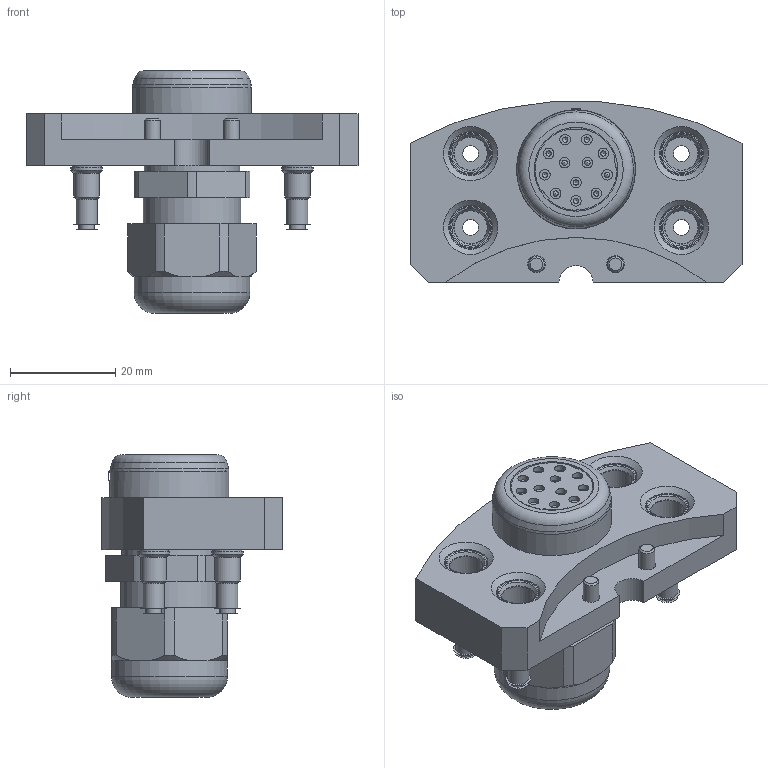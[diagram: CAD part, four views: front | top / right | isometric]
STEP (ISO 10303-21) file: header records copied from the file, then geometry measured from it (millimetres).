
FILE_DESCRIPTION(/* description */ (''),/* implementation_level */ '2;1');
FILE_NAME(/* name */ '\\dc01\daten\CAD\Standard\Daten\3D-Datenbank\Webseite 2020\MGW\MGW080\G-MEK080-U-4Pk4-1E12.stp',/* time_stamp */ '2020-05-12T13:07:52+02:00',/* author */ ('ysplieth'),/* organization */ (''),/* preprocessor_version */ 'ST-DEVELOPER v17',/* originating_system */ 'Autodesk Inventor 2018',/* authorisation */ '');
FILE_SCHEMA (('AUTOMOTIVE_DESIGN { 1 0 10303 214 3 1 1 }'));
Length unit declared in the file: millimetre
Products named in the file (1): G-MEK080-U-4Pk4-1E12
Bounding box: 63 x 34.23 x 46.1 mm (x, y, z)
Volume: 26973.5 mm3; surface area: 17321.2 mm2
Topology: 11 solids, 11 shells, 372 faces, 1015 edges, 704 vertices
Faces by surface type: plane 153, cylinder 138, cone 65, torus 16
Full cylindrical faces by diameter (mm): 1 x12, 1.6 x12, 2 x26, 2.013 x2, 3 x6, 3.3 x2, 4 x4, 4.8 x4, 5.5 x6, 5.9 x4, 6 x6, 6.3 x4, 8 x4, 8.3 x4, 10 x1, 14 x1, 15.9 x1, 17.1 x1, 18.1 x1, 18.5 x1, 22 x1, 22.6 x1
Entity records: 13108 total; most frequent: CARTESIAN_POINT 2802, DIRECTION 2196, ORIENTED_EDGE 1974, EDGE_CURVE 987, AXIS2_PLACEMENT_3D 891, VERTEX_POINT 704, CIRCLE 518, EDGE_LOOP 467
